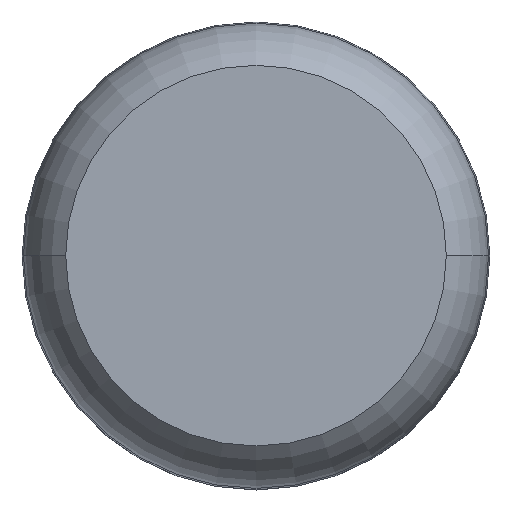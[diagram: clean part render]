
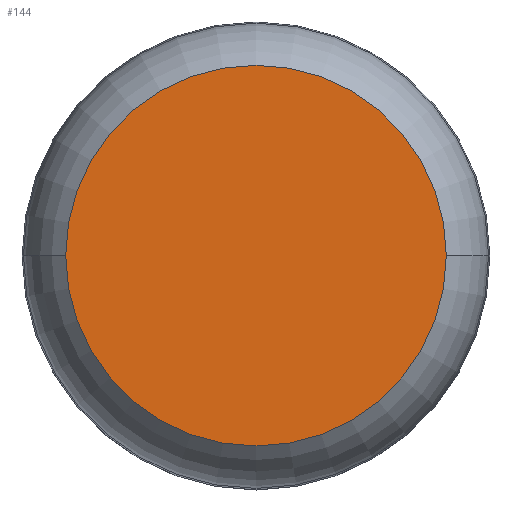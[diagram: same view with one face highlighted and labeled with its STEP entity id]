
A CAD part, top view. The second image highlights one B-rep face of the part: STEP entity #144.
In plain terms, the highlighted planar face has unit normal (0, 0, 1).
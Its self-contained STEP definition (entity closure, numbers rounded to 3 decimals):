
#144 = ADVANCED_FACE( '', ( #299 ), #300, .T. );
#299 = FACE_OUTER_BOUND( '', #468, .T. );
#300 = PLANE( '', #469 );
#468 = EDGE_LOOP( '', ( #1036, #1037 ) );
#469 = AXIS2_PLACEMENT_3D( '', #1038, #1039, #1040 );
#1036 = ORIENTED_EDGE( '', *, *, #1314, .F. );
#1037 = ORIENTED_EDGE( '', *, *, #1150, .F. );
#1038 = CARTESIAN_POINT( '', ( 6.003, 0., 28.8 ) );
#1039 = DIRECTION( '', ( 0., 0., 1. ) );
#1040 = DIRECTION( '', ( -1., 0., 0. ) );
#1150 = EDGE_CURVE( '', #1367, #1369, #1370, .T. );
#1314 = EDGE_CURVE( '', #1369, #1367, #1637, .T. );
#1367 = VERTEX_POINT( '', #1701 );
#1369 = VERTEX_POINT( '', #1703 );
#1370 = CIRCLE( '', #1704, 12.005 );
#1637 = CIRCLE( '', #2161, 12.005 );
#1701 = CARTESIAN_POINT( '', ( -12.005, 0., 28.8 ) );
#1703 = CARTESIAN_POINT( '', ( 12.005, 0., 28.8 ) );
#1704 = AXIS2_PLACEMENT_3D( '', #2219, #2220, #2221 );
#2161 = AXIS2_PLACEMENT_3D( '', #2511, #2512, #2513 );
#2219 = CARTESIAN_POINT( '', ( 0., 0., 28.8 ) );
#2220 = DIRECTION( '', ( 0., 0., -1. ) );
#2221 = DIRECTION( '', ( 1., 0., 0. ) );
#2511 = CARTESIAN_POINT( '', ( 0., 0., 28.8 ) );
#2512 = DIRECTION( '', ( 0., 0., -1. ) );
#2513 = DIRECTION( '', ( 1., 0., 0. ) );
